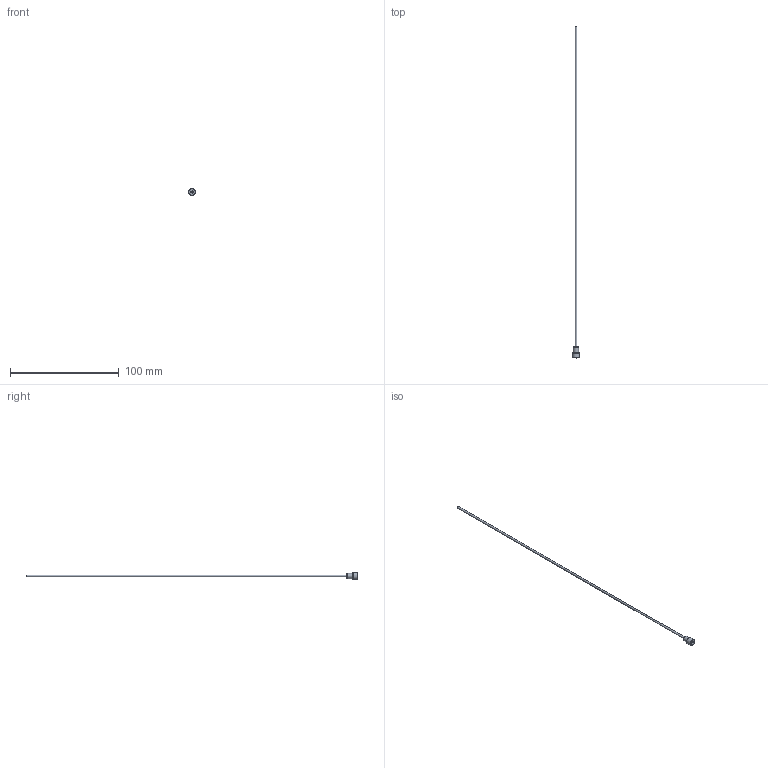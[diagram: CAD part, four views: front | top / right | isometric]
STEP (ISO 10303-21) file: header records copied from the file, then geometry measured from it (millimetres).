
FILE_DESCRIPTION(/* description */ (''),/* implementation_level */ '2;1');
FILE_NAME(/* name */ 'C:/Users/drich/Desktop/JR072T-12 v1.step',/* time_stamp */ '2019-12-30T12:58:04-06:00',/* author */ (''),/* organization */ (''),/* preprocessor_version */ 'ST-DEVELOPER v18',/* originating_system */ 'Autodesk Translation Framework v8.12.0.6',/* authorisation */ '');
FILE_SCHEMA (('AUTOMOTIVE_DESIGN { 1 0 10303 214 3 1 1 }'));
Length unit declared in the file: inch
Products named in the file (1): JR072T-12
Bounding box: 6.22 x 304.8 x 6.22 mm (x, y, z)
Volume: 433.6 mm3; surface area: 3396.8 mm2
Topology: 1 solids, 1 shells, 19 faces, 47 edges, 33 vertices
Faces by surface type: plane 11, cylinder 4, torus 3, cone 1
Full cylindrical faces by diameter (mm): 1.524 x1, 1.829 x1, 4.727 x1, 6.223 x1
Entity records: 624 total; most frequent: DIRECTION 111, CARTESIAN_POINT 100, ORIENTED_EDGE 94, EDGE_CURVE 47, AXIS2_PLACEMENT_3D 44, VERTEX_POINT 33, EDGE_LOOP 24, CIRCLE 24
